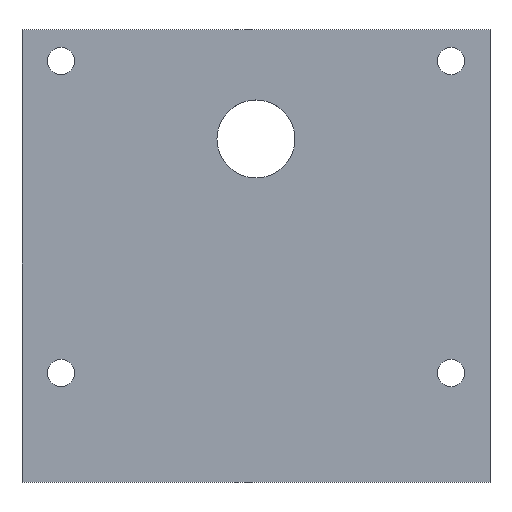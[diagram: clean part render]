
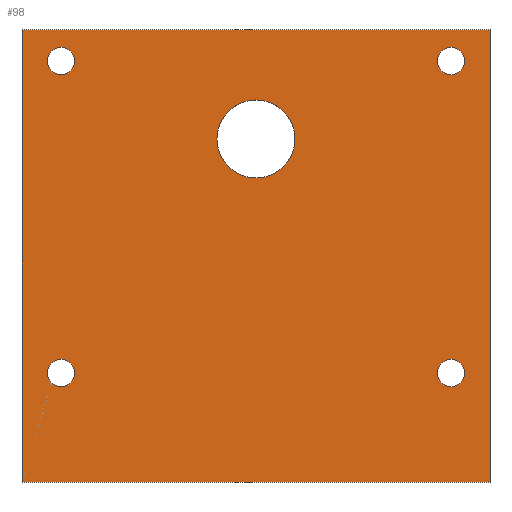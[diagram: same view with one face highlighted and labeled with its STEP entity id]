
A CAD part, top view. The second image highlights one B-rep face of the part: STEP entity #98.
In plain terms, the highlighted planar face has unit normal (0, 0, 1).
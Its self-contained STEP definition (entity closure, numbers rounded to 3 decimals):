
#50=FACE_BOUND('',#140,.T.);
#51=FACE_BOUND('',#141,.T.);
#52=FACE_BOUND('',#142,.T.);
#53=FACE_BOUND('',#143,.T.);
#54=FACE_BOUND('',#144,.T.);
#55=FACE_BOUND('',#145,.T.);
#98=ADVANCED_FACE('',(#50,#51,#52,#53,#54,#55),#120,.T.);
#120=PLANE('',#506);
#140=EDGE_LOOP('',(#204));
#141=EDGE_LOOP('',(#205));
#142=EDGE_LOOP('',(#206));
#143=EDGE_LOOP('',(#207));
#144=EDGE_LOOP('',(#208));
#145=EDGE_LOOP('',(#209,#210,#211,#212));
#204=ORIENTED_EDGE('',*,*,#324,.F.);
#205=ORIENTED_EDGE('',*,*,#325,.T.);
#206=ORIENTED_EDGE('',*,*,#326,.T.);
#207=ORIENTED_EDGE('',*,*,#327,.T.);
#208=ORIENTED_EDGE('',*,*,#328,.T.);
#209=ORIENTED_EDGE('',*,*,#314,.T.);
#210=ORIENTED_EDGE('',*,*,#318,.T.);
#211=ORIENTED_EDGE('',*,*,#321,.T.);
#212=ORIENTED_EDGE('',*,*,#323,.T.);
#278=VERTEX_POINT('',#678);
#279=VERTEX_POINT('',#680);
#281=VERTEX_POINT('',#686);
#283=VERTEX_POINT('',#692);
#284=VERTEX_POINT('',#699);
#285=VERTEX_POINT('',#701);
#286=VERTEX_POINT('',#703);
#287=VERTEX_POINT('',#705);
#288=VERTEX_POINT('',#707);
#314=EDGE_CURVE('',#279,#278,#409,.T.);
#318=EDGE_CURVE('',#278,#281,#413,.T.);
#321=EDGE_CURVE('',#281,#283,#416,.T.);
#323=EDGE_CURVE('',#283,#279,#418,.T.);
#324=EDGE_CURVE('',#284,#284,#361,.T.);
#325=EDGE_CURVE('',#285,#285,#362,.T.);
#326=EDGE_CURVE('',#286,#286,#363,.T.);
#327=EDGE_CURVE('',#287,#287,#364,.T.);
#328=EDGE_CURVE('',#288,#288,#365,.T.);
#361=CIRCLE('',#501,5.);
#362=CIRCLE('',#502,1.75);
#363=CIRCLE('',#503,1.75);
#364=CIRCLE('',#504,1.75);
#365=CIRCLE('',#505,1.75);
#409=LINE('',#679,#437);
#413=LINE('',#687,#441);
#416=LINE('',#693,#444);
#418=LINE('',#696,#446);
#437=VECTOR('',#557,1.);
#441=VECTOR('',#563,1.);
#444=VECTOR('',#568,1.);
#446=VECTOR('',#572,1.);
#501=AXIS2_PLACEMENT_3D('',#698,#575,#576);
#502=AXIS2_PLACEMENT_3D('',#700,#577,#578);
#503=AXIS2_PLACEMENT_3D('',#702,#579,#580);
#504=AXIS2_PLACEMENT_3D('',#704,#581,#582);
#505=AXIS2_PLACEMENT_3D('',#706,#583,#584);
#506=AXIS2_PLACEMENT_3D('',#708,#585,#586);
#557=DIRECTION('',(0.,-1.,0.));
#563=DIRECTION('',(1.,0.,0.));
#568=DIRECTION('',(0.,1.,0.));
#572=DIRECTION('',(-1.,0.,0.));
#575=DIRECTION('',(0.,0.,1.));
#576=DIRECTION('',(1.,0.,0.));
#577=DIRECTION('',(0.,0.,-1.));
#578=DIRECTION('',(-1.,0.,0.));
#579=DIRECTION('',(0.,0.,-1.));
#580=DIRECTION('',(-1.,0.,0.));
#581=DIRECTION('',(0.,0.,-1.));
#582=DIRECTION('',(-1.,0.,0.));
#583=DIRECTION('',(0.,0.,-1.));
#584=DIRECTION('',(-1.,0.,0.));
#585=DIRECTION('',(0.,0.,1.));
#586=DIRECTION('',(1.,0.,0.));
#678=CARTESIAN_POINT('',(-30.,-29.,1.));
#679=CARTESIAN_POINT('',(-30.,29.,1.));
#680=CARTESIAN_POINT('',(-30.,29.,1.));
#686=CARTESIAN_POINT('',(30.,-29.,1.));
#687=CARTESIAN_POINT('',(-30.,-29.,1.));
#692=CARTESIAN_POINT('',(30.,29.,1.));
#693=CARTESIAN_POINT('',(30.,-29.,1.));
#696=CARTESIAN_POINT('',(30.,29.,1.));
#698=CARTESIAN_POINT('',(0.,15.,1.));
#699=CARTESIAN_POINT('',(5.,15.,1.));
#700=CARTESIAN_POINT('',(25.,25.,1.));
#701=CARTESIAN_POINT('',(23.25,25.,1.));
#702=CARTESIAN_POINT('',(25.,-15.,1.));
#703=CARTESIAN_POINT('',(23.25,-15.,1.));
#704=CARTESIAN_POINT('',(-25.,25.,1.));
#705=CARTESIAN_POINT('',(-26.75,25.,1.));
#706=CARTESIAN_POINT('',(-25.,-15.,1.));
#707=CARTESIAN_POINT('',(-26.75,-15.,1.));
#708=CARTESIAN_POINT('',(0.,0.,1.));
